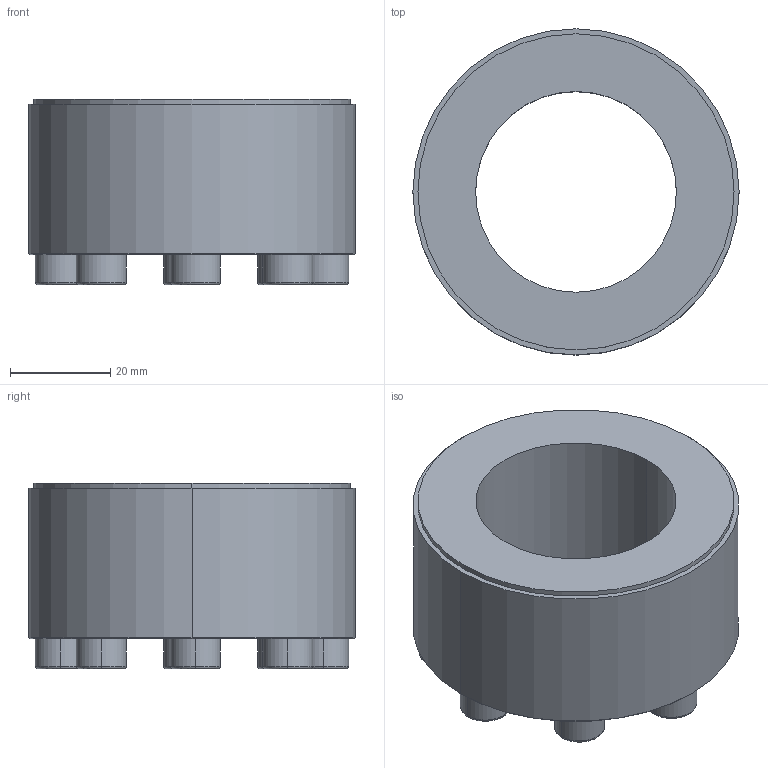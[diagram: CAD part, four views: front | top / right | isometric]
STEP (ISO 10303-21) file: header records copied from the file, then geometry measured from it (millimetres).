
FILE_DESCRIPTION (( 'STEP AP203' ), '1' );
FILE_NAME ('PL-B 40-65.STEP', '2021-10-22T07:47:47', ( '' ), ( '' ), 'SwSTEP 2.0', 'SolidWorks 2018', '' );
FILE_SCHEMA (( 'CONFIG_CONTROL_DESIGN' ));
Length unit declared in the file: millimetre
Products named in the file (1): PL-B 40-65
Bounding box: 65 x 65 x 37 mm (x, y, z)
Volume: 66941.2 mm3; surface area: 16173.1 mm2
Topology: 1 solids, 1 shells, 109 faces, 250 edges, 160 vertices
Faces by surface type: plane 67, cylinder 22, torus 16, cone 4
Entity records: 3145 total; most frequent: DIRECTION 550, CARTESIAN_POINT 520, ORIENTED_EDGE 500, EDGE_CURVE 250, AXIS2_PLACEMENT_3D 190, VECTOR 170, LINE 170, VERTEX_POINT 160
